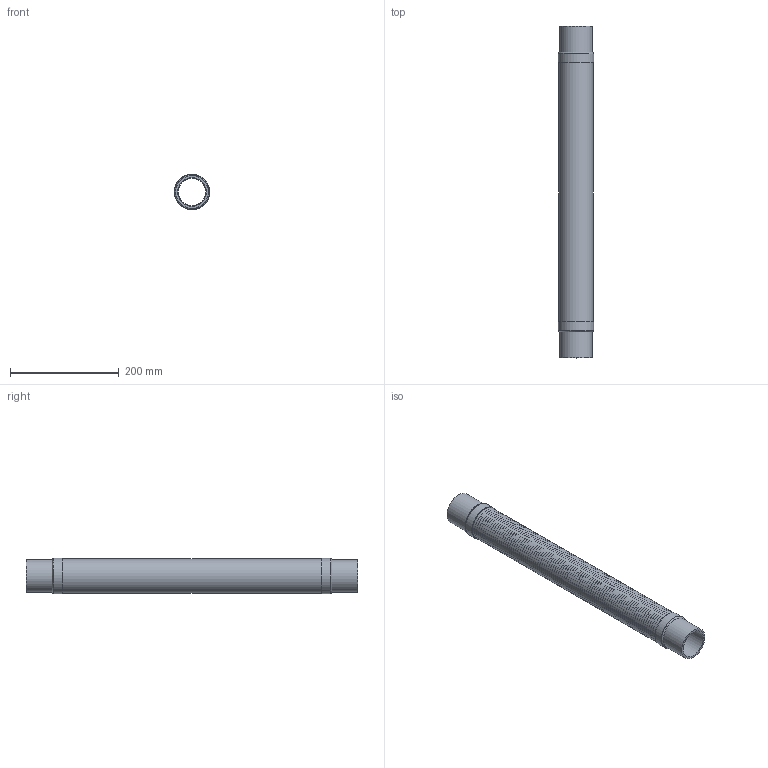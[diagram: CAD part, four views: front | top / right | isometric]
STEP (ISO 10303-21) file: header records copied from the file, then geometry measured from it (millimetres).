
FILE_DESCRIPTION((''),'2;1');
FILE_NAME('C:\2012_Work\Designs\MN\MN-2x24.stp','2013-08-09T17:35:42',('KShiels'),(''),'Autodesk Inventor 2012','Autodesk Inventor 2012','');
FILE_SCHEMA(('AUTOMOTIVE_DESIGN { 1 0 10303 214 1 1 1 1 }'));
Length unit declared in the file: inch
Products named in the file (6): MN-2x24; MN-2x24_Welds; A-30099-5-2MN-BRAID; A-30099-5_2MN-BELLOWS; A-30099-5_2MN-THREADED_NIPPLE; A-30099-5_2MN-BRAID-COLLAR
Assembly tree (7 placements, depth 2):
  MN-2x24
    MN-2x24_Welds
    A-30099-5-2MN-BRAID
    A-30099-5_2MN-BELLOWS
    A-30099-5_2MN-THREADED_NIPPLE  x2
    A-30099-5_2MN-BRAID-COLLAR  x2
Bounding box: 64.97 x 609.6 x 64.97 mm (x, y, z)
Volume: 181270 mm3; surface area: 721590.8 mm2
Topology: 8 solids, 8 shells, 806 faces, 1220 edges, 816 vertices
Faces by surface type: plane 402, torus 390, cylinder 12, bspline 2
Full cylindrical faces by diameter (mm): 52.502 x2, 60.325 x4, 61.976 x1, 62.586 x3, 64.967 x2
Entity records: 16718 total; most frequent: DIRECTION 3206, CARTESIAN_POINT 2917, ORIENTED_EDGE 1608, AXIS2_PLACEMENT_3D 1603, EDGE_LOOP 1594, EDGE_CURVE 804, VERTEX_POINT 802, FACE_OUTER_BOUND 798
